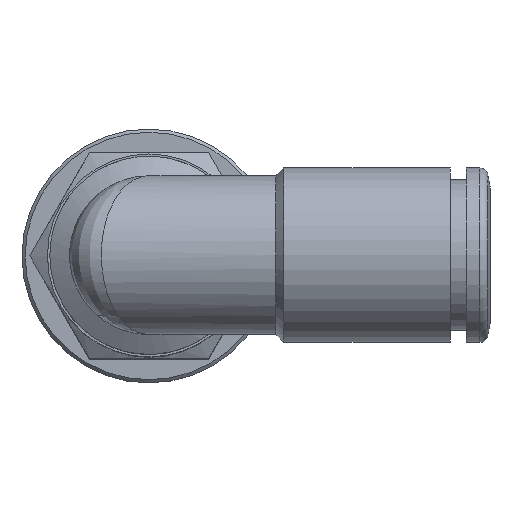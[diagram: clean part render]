
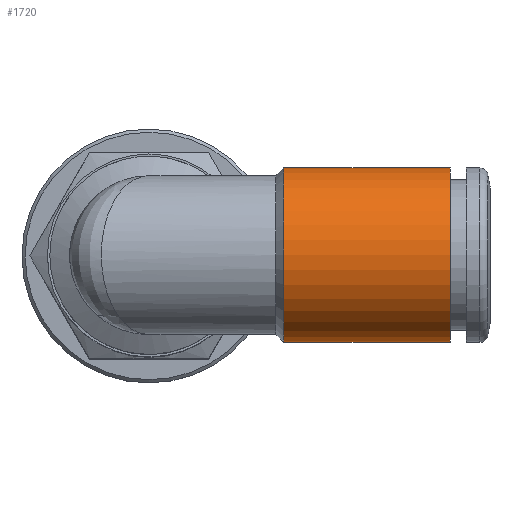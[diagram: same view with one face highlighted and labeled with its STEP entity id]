
A CAD part, top view. The second image highlights one B-rep face of the part: STEP entity #1720.
In plain terms, the highlighted cylindrical face has radius 5.5 mm (diameter 11 mm), a full revolution.
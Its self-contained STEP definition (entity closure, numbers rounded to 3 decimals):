
#1720=ADVANCED_FACE('', (#1730,#1740), #1750, .T.);
#5780=AXIS2_PLACEMENT_3D('Ax2Pl3d', #5790, #5800, #5810);
#6700=AXIS2_PLACEMENT_3D('Ax2Pl3d', #6710, #6720, #6730);
#6740=AXIS2_PLACEMENT_3D('Ax2Pl3d', #6750, #6760, #6770);
#5790=CARTESIAN_POINT('HicPkt', (32.754,11.921,
25.632));
#21690=CARTESIAN_POINT('', (32.754,11.921,31.132));
#6710=CARTESIAN_POINT('HicPkt', (32.754,11.921,
25.632));
#6750=CARTESIAN_POINT('HicPkt', (22.254,11.921,
25.632));
#21830=CARTESIAN_POINT('', (22.254,11.921,31.132));
#22680=CIRCLE('Circle', #5780, 5.5);
#22780=CIRCLE('Circle', #6740, 5.5);
#1750=CYLINDRICAL_SURFACE('Zyl', #6700, 5.5);
#5800=DIRECTION('Axis', (1.,0.,0.));
#5810=DIRECTION('RefDirection', (0.,-0.,-1.));
#6720=DIRECTION('Axis', (-1.,0.,0.))
;
#6730=DIRECTION('RefDirection', (0.,
0.,-1.));
#6760=DIRECTION('Axis', (1.,0.,0.));
#6770=DIRECTION('RefDirection', (0.,-0.,-1.));
#26580=EDGE_CURVE('', #26590, #26590, #22680, .T.);
#26960=EDGE_CURVE('', #26970, #26970, #22780, .T.);
#29650=EDGE_LOOP('Edge_loop', (#29660));
#29670=EDGE_LOOP('Edge_loop', (#29680));
#1740=FACE_BOUND('', #29670, .T.);
#1730=FACE_OUTER_BOUND('Face_outer_bound', #29650, .T.);
#29660=ORIENTED_EDGE('', *, *, #26960, .T.);
#29680=ORIENTED_EDGE('', *, *, #26580, .F.);
#26590=VERTEX_POINT('', #21690);
#26970=VERTEX_POINT('', #21830);
